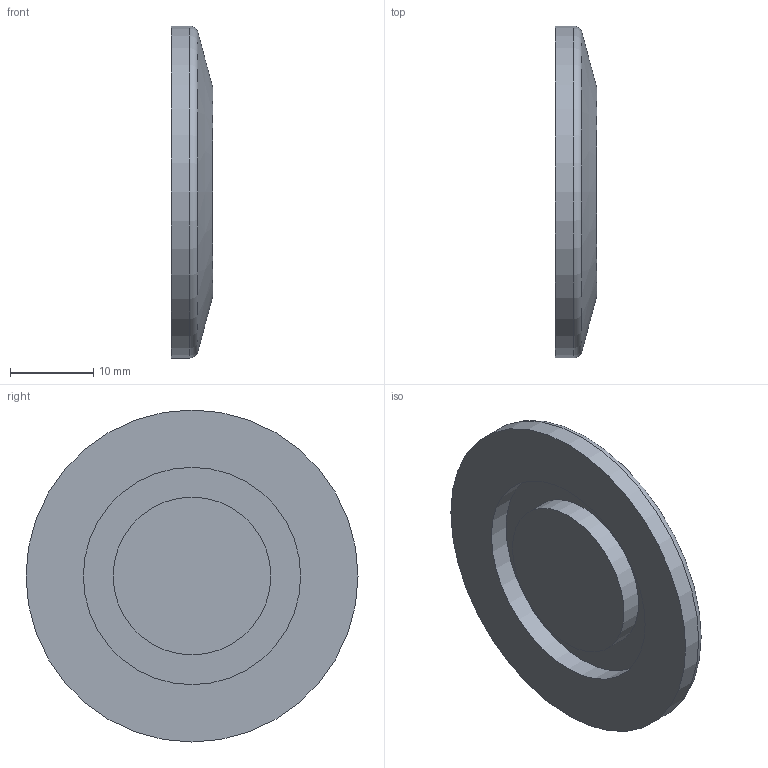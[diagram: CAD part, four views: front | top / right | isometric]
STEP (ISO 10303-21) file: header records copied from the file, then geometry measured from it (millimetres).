
FILE_DESCRIPTION(/* description */ (''),/* implementation_level */ '2;1');
FILE_NAME(/* name */ '18447 88437.step',/* time_stamp */ '2015-09-18T16:01:29+08:00',/* author */ (''),/* organization */ (''),/* preprocessor_version */ 'ST-DEVELOPER v11',/* originating_system */ 'SIEMENS UGS NX 6.0',/* authorisation */ '');
FILE_SCHEMA (('AUTOMOTIVE_DESIGN { 1 0 10303 214 1 1 1 1 }'));
Length unit declared in the file: millimetre
Products named in the file (1): 18447 88437
Bounding box: 5 x 40 x 40 mm (x, y, z)
Volume: 4808.8 mm3; surface area: 3243.5 mm2
Topology: 1 solids, 1 shells, 9 faces, 13 edges, 8 vertices
Faces by surface type: plane 4, cylinder 3, cone 1, torus 1
Full cylindrical faces by diameter (mm): 19 x1, 26.2 x1, 40 x1
Entity records: 198 total; most frequent: DIRECTION 36, CARTESIAN_POINT 26, AXIS2_PLACEMENT_3D 18, EDGE_LOOP 16, ORIENTED_EDGE 16, FACE_BOUND 14, ADVANCED_FACE 9, VERTEX_POINT 8
